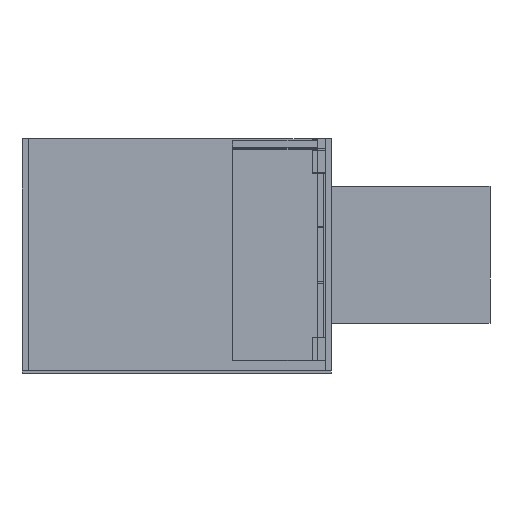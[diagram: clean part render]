
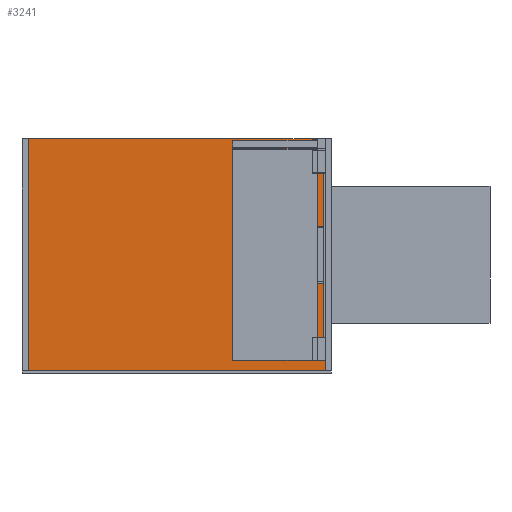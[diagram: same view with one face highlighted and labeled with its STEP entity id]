
A CAD part, left-side view. The second image highlights one B-rep face of the part: STEP entity #3241.
In plain terms, the highlighted planar face has unit normal (-1, 0, 0) as drawn and (0, 0, 1) by its records, which use the part's own axes.
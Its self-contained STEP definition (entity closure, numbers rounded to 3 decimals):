
#99 = AXIS2_PLACEMENT_3D ( 'NONE', #2244, #1497, #4351 ) ;
#125 = CARTESIAN_POINT ( 'NONE',  ( -148.376, 457.687, 0. ) ) ;
#299 = EDGE_CURVE ( 'NONE', #4838, #4277, #5172, .T. ) ;
#358 = VECTOR ( 'NONE', #3342, 1000. ) ;
#363 = CARTESIAN_POINT ( 'NONE',  ( -447.976, 73.887, 0. ) ) ;
#494 = ORIENTED_EDGE ( 'NONE', *, *, #1792, .T. ) ;
#574 = DIRECTION ( 'NONE',  ( -1., 0., 0. ) ) ;
#611 = ORIENTED_EDGE ( 'NONE', *, *, #2923, .T. ) ;
#837 = DIRECTION ( 'NONE',  ( 0., 0., -1. ) ) ;
#857 = AXIS2_PLACEMENT_3D ( 'NONE', #3200, #2380, #3605 ) ;
#892 = DIRECTION ( 'NONE',  ( 0., 0., 1. ) ) ;
#1021 = EDGE_CURVE ( 'NONE', #2087, #2974, #4083, .T. ) ;
#1045 = VERTEX_POINT ( 'NONE', #363 ) ;
#1124 = ORIENTED_EDGE ( 'NONE', *, *, #5012, .F. ) ;
#1145 = CIRCLE ( 'NONE', #2743, 0.2 ) ;
#1221 = DIRECTION ( 'NONE',  ( -1., 0., 0. ) ) ;
#1282 = CARTESIAN_POINT ( 'NONE',  ( -148.176, 73.687, 0. ) ) ;
#1497 = DIRECTION ( 'NONE',  ( 0., 0., 1. ) ) ;
#1600 = CARTESIAN_POINT ( 'NONE',  ( -447.776, 457.687, 0. ) ) ;
#1792 = EDGE_CURVE ( 'NONE', #4838, #5111, #2357, .T. ) ;
#1822 = EDGE_CURVE ( 'NONE', #4036, #5111, #5418, .T. ) ;
#1878 = ORIENTED_EDGE ( 'NONE', *, *, #1822, .F. ) ;
#1961 = ORIENTED_EDGE ( 'NONE', *, *, #2544, .T. ) ;
#2087 = VERTEX_POINT ( 'NONE', #1600 ) ;
#2186 = VERTEX_POINT ( 'NONE', #125 ) ;
#2244 = CARTESIAN_POINT ( 'NONE',  ( -447.776, 73.887, 0. ) ) ;
#2357 = CIRCLE ( 'NONE', #2717, 0.2 ) ;
#2380 = DIRECTION ( 'NONE',  ( 0., 0., 1. ) ) ;
#2443 = VECTOR ( 'NONE', #5042, 1000. ) ;
#2519 = DIRECTION ( 'NONE',  ( -1., 0., 0. ) ) ;
#2544 = EDGE_CURVE ( 'NONE', #4036, #2186, #1145, .T. ) ;
#2556 = LINE ( 'NONE', #4217, #4880 ) ;
#2717 = AXIS2_PLACEMENT_3D ( 'NONE', #3788, #892, #1221 ) ;
#2743 = AXIS2_PLACEMENT_3D ( 'NONE', #4101, #3286, #4964 ) ;
#2819 = ORIENTED_EDGE ( 'NONE', *, *, #4175, .F. ) ;
#2907 = DIRECTION ( 'NONE',  ( 1., 0., 0. ) ) ;
#2923 = EDGE_CURVE ( 'NONE', #1045, #4277, #4839, .T. ) ;
#2974 = VERTEX_POINT ( 'NONE', #5336 ) ;
#3200 = CARTESIAN_POINT ( 'NONE',  ( -447.776, 457.487, 0. ) ) ;
#3241 = ADVANCED_FACE ( 'NONE', ( #5097 ), #3415, .F. ) ;
#3286 = DIRECTION ( 'NONE',  ( 0., 0., 1. ) ) ;
#3316 = CARTESIAN_POINT ( 'NONE',  ( -447.976, 457.687, 0. ) ) ;
#3342 = DIRECTION ( 'NONE',  ( 0., 1., 0. ) ) ;
#3344 = CARTESIAN_POINT ( 'NONE',  ( -447.776, 73.687, 0. ) ) ;
#3372 = CARTESIAN_POINT ( 'NONE',  ( -148.176, 73.887, 0. ) ) ;
#3415 = PLANE ( 'NONE',  #4863 ) ;
#3423 = LINE ( 'NONE', #3316, #358 ) ;
#3605 = DIRECTION ( 'NONE',  ( -1., 0., 0. ) ) ;
#3788 = CARTESIAN_POINT ( 'NONE',  ( -148.376, 73.887, 0. ) ) ;
#4036 = VERTEX_POINT ( 'NONE', #4944 ) ;
#4083 = CIRCLE ( 'NONE', #857, 0.2 ) ;
#4101 = CARTESIAN_POINT ( 'NONE',  ( -148.376, 457.487, 0. ) ) ;
#4169 = EDGE_LOOP ( 'NONE', ( #1124, #611, #5394, #494, #1878, #1961, #2819, #4711 ) ) ;
#4175 = EDGE_CURVE ( 'NONE', #2087, #2186, #2556, .T. ) ;
#4217 = CARTESIAN_POINT ( 'NONE',  ( -148.176, 457.687, 0. ) ) ;
#4234 = CARTESIAN_POINT ( 'NONE',  ( -148.176, 457.687, 0. ) ) ;
#4277 = VERTEX_POINT ( 'NONE', #3344 ) ;
#4334 = CARTESIAN_POINT ( 'NONE',  ( -148.376, 73.687, 0. ) ) ;
#4351 = DIRECTION ( 'NONE',  ( -1., 0., 0. ) ) ;
#4409 = CARTESIAN_POINT ( 'NONE',  ( -148.176, 73.687, 0. ) ) ;
#4419 = VECTOR ( 'NONE', #574, 1000. ) ;
#4711 = ORIENTED_EDGE ( 'NONE', *, *, #1021, .T. ) ;
#4838 = VERTEX_POINT ( 'NONE', #4334 ) ;
#4839 = CIRCLE ( 'NONE', #99, 0.2 ) ;
#4863 = AXIS2_PLACEMENT_3D ( 'NONE', #1282, #837, #2519 ) ;
#4880 = VECTOR ( 'NONE', #2907, 1000. ) ;
#4944 = CARTESIAN_POINT ( 'NONE',  ( -148.176, 457.487, 0. ) ) ;
#4964 = DIRECTION ( 'NONE',  ( -1., 0., 0. ) ) ;
#5012 = EDGE_CURVE ( 'NONE', #1045, #2974, #3423, .T. ) ;
#5042 = DIRECTION ( 'NONE',  ( 0., -1., 0. ) ) ;
#5097 = FACE_OUTER_BOUND ( 'NONE', #4169, .T. ) ;
#5111 = VERTEX_POINT ( 'NONE', #3372 ) ;
#5172 = LINE ( 'NONE', #4409, #4419 ) ;
#5336 = CARTESIAN_POINT ( 'NONE',  ( -447.976, 457.487, 0. ) ) ;
#5394 = ORIENTED_EDGE ( 'NONE', *, *, #299, .F. ) ;
#5418 = LINE ( 'NONE', #4234, #2443 ) ;
